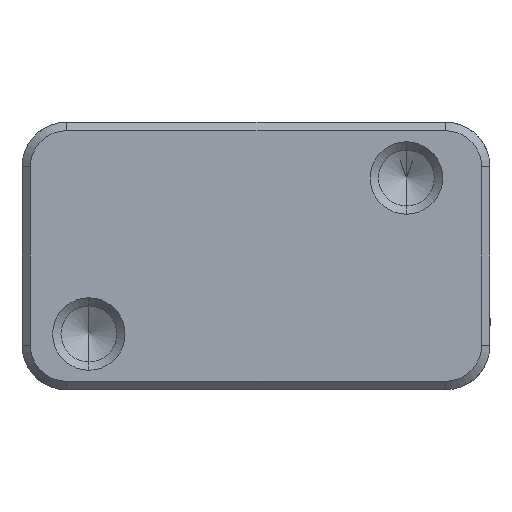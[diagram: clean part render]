
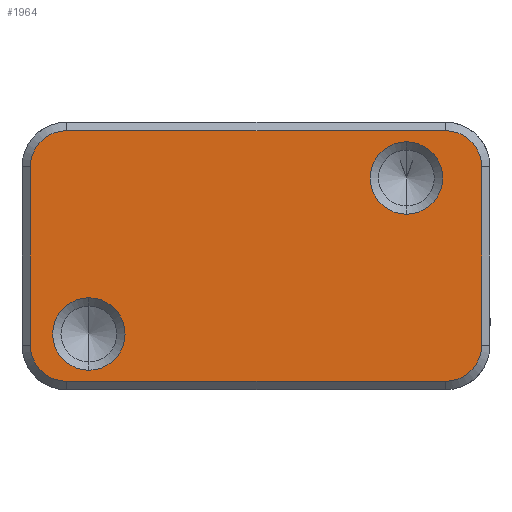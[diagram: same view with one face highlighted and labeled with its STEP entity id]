
A CAD part, front view. The second image highlights one B-rep face of the part: STEP entity #1964.
In plain terms, the highlighted planar face has unit normal (0, -1, 0).
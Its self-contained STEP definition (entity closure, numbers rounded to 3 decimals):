
#288 = CARTESIAN_POINT ( 'NONE',  ( 17., 0., 7.995 ) ) ;
#332 = EDGE_CURVE ( 'NONE', #4616, #9014, #9553, .T. ) ;
#355 = VERTEX_POINT ( 'NONE', #4909 ) ;
#356 = VECTOR ( 'NONE', #11866, 1000. ) ;
#488 = DIRECTION ( 'NONE',  ( -1., 0., 0. ) ) ;
#665 = ORIENTED_EDGE ( 'NONE', *, *, #3602, .T. ) ;
#1172 = EDGE_CURVE ( 'NONE', #4988, #11158, #1925, .T. ) ;
#1275 = AXIS2_PLACEMENT_3D ( 'NONE', #13134, #13539, #488 ) ;
#1294 = ORIENTED_EDGE ( 'NONE', *, *, #3321, .F. ) ;
#1463 = DIRECTION ( 'NONE',  ( 0., 1., 0. ) ) ;
#1477 = AXIS2_PLACEMENT_3D ( 'NONE', #3215, #6392, #11806 ) ;
#1568 = VERTEX_POINT ( 'NONE', #2068 ) ;
#1906 = CIRCLE ( 'NONE', #3263, 3.25 ) ;
#1925 = CIRCLE ( 'NONE', #1477, 3.25 ) ;
#1964 = ADVANCED_FACE ( 'NONE', ( #6305, #11719, #10591 ), #10803, .T. ) ;
#2068 = CARTESIAN_POINT ( 'NONE',  ( 13.5, 0., 10.245 ) ) ;
#2164 = CARTESIAN_POINT ( 'NONE',  ( 17., 0., -11.256 ) ) ;
#2250 = EDGE_CURVE ( 'NONE', #8808, #5176, #12907, .T. ) ;
#2510 = DIRECTION ( 'NONE',  ( 0., 1., 0. ) ) ;
#2615 = CARTESIAN_POINT ( 'NONE',  ( 20.25, 0., -8.006 ) ) ;
#2625 = CIRCLE ( 'NONE', #1275, 3.25 ) ;
#2854 = ORIENTED_EDGE ( 'NONE', *, *, #10769, .T. ) ;
#2875 = LINE ( 'NONE', #4983, #12175 ) ;
#2876 = ORIENTED_EDGE ( 'NONE', *, *, #8964, .T. ) ;
#2904 = CARTESIAN_POINT ( 'NONE',  ( -20.25, 0., 7.995 ) ) ;
#2953 = EDGE_LOOP ( 'NONE', ( #7180, #9186 ) ) ;
#3215 = CARTESIAN_POINT ( 'NONE',  ( -17., 0., -8.006 ) ) ;
#3263 = AXIS2_PLACEMENT_3D ( 'NONE', #5923, #8027, #11267 ) ;
#3308 = CARTESIAN_POINT ( 'NONE',  ( -15., 0., -3.755 ) ) ;
#3321 = EDGE_CURVE ( 'NONE', #9014, #4988, #5333, .T. ) ;
#3432 = CARTESIAN_POINT ( 'NONE',  ( 13.5, 0., 6.995 ) ) ;
#3602 = EDGE_CURVE ( 'NONE', #9271, #12233, #2625, .T. ) ;
#3704 = DIRECTION ( 'NONE',  ( 0., 0., -1. ) ) ;
#3709 = CARTESIAN_POINT ( 'NONE',  ( 17., 0., -8.006 ) ) ;
#3841 = VERTEX_POINT ( 'NONE', #3308 ) ;
#3985 = CARTESIAN_POINT ( 'NONE',  ( -17., 0., -11.256 ) ) ;
#4245 = CARTESIAN_POINT ( 'NONE',  ( -21., 0., -12.006 ) ) ;
#4554 = ORIENTED_EDGE ( 'NONE', *, *, #12454, .T. ) ;
#4616 = VERTEX_POINT ( 'NONE', #2615 ) ;
#4640 = CARTESIAN_POINT ( 'NONE',  ( 13.5, 0., 3.745 ) ) ;
#4700 = DIRECTION ( 'NONE',  ( -1., 0., 0. ) ) ;
#4771 = CARTESIAN_POINT ( 'NONE',  ( -21., 0., 11.245 ) ) ;
#4909 = CARTESIAN_POINT ( 'NONE',  ( -15., 0., -10.255 ) ) ;
#4983 = CARTESIAN_POINT ( 'NONE',  ( -20.25, 0., -12.006 ) ) ;
#4988 = VERTEX_POINT ( 'NONE', #3985 ) ;
#5152 = ORIENTED_EDGE ( 'NONE', *, *, #10312, .T. ) ;
#5176 = VERTEX_POINT ( 'NONE', #5816 ) ;
#5333 = LINE ( 'NONE', #12094, #11357 ) ;
#5448 = DIRECTION ( 'NONE',  ( 0., -1., 0. ) ) ;
#5816 = CARTESIAN_POINT ( 'NONE',  ( 17., 0., 11.245 ) ) ;
#5844 = DIRECTION ( 'NONE',  ( 0., 0., -1. ) ) ;
#5923 = CARTESIAN_POINT ( 'NONE',  ( -15., 0., -7.005 ) ) ;
#6305 = FACE_BOUND ( 'NONE', #2953, .T. ) ;
#6392 = DIRECTION ( 'NONE',  ( 0., 1., 0. ) ) ;
#6398 = DIRECTION ( 'NONE',  ( -1., 0., 0. ) ) ;
#6590 = LINE ( 'NONE', #7642, #356 ) ;
#6836 = AXIS2_PLACEMENT_3D ( 'NONE', #288, #11998, #11861 ) ;
#7180 = ORIENTED_EDGE ( 'NONE', *, *, #9635, .T. ) ;
#7284 = EDGE_CURVE ( 'NONE', #5176, #9271, #13373, .T. ) ;
#7465 = DIRECTION ( 'NONE',  ( 0., 0., -1. ) ) ;
#7642 = CARTESIAN_POINT ( 'NONE',  ( 20.25, 0., -12.006 ) ) ;
#8027 = DIRECTION ( 'NONE',  ( 0., 1., 0. ) ) ;
#8472 = DIRECTION ( 'NONE',  ( 1., 0., 0. ) ) ;
#8808 = VERTEX_POINT ( 'NONE', #12180 ) ;
#8860 = CARTESIAN_POINT ( 'NONE',  ( -15., 0., -7.005 ) ) ;
#8964 = EDGE_CURVE ( 'NONE', #12233, #11158, #2875, .T. ) ;
#9014 = VERTEX_POINT ( 'NONE', #2164 ) ;
#9139 = DIRECTION ( 'NONE',  ( -1., 0., 0. ) ) ;
#9185 = VECTOR ( 'NONE', #9139, 1000. ) ;
#9186 = ORIENTED_EDGE ( 'NONE', *, *, #9209, .T. ) ;
#9209 = EDGE_CURVE ( 'NONE', #1568, #9721, #11053, .T. ) ;
#9271 = VERTEX_POINT ( 'NONE', #12440 ) ;
#9553 = CIRCLE ( 'NONE', #10906, 3.25 ) ;
#9635 = EDGE_CURVE ( 'NONE', #9721, #1568, #13417, .T. ) ;
#9654 = EDGE_LOOP ( 'NONE', ( #4554, #2854 ) ) ;
#9721 = VERTEX_POINT ( 'NONE', #4640 ) ;
#9784 = CARTESIAN_POINT ( 'NONE',  ( 13.5, 0., 6.995 ) ) ;
#9814 = AXIS2_PLACEMENT_3D ( 'NONE', #9784, #13940, #7465 ) ;
#9840 = DIRECTION ( 'NONE',  ( 0., 0., -1. ) ) ;
#10312 = EDGE_CURVE ( 'NONE', #4616, #8808, #6590, .T. ) ;
#10588 = AXIS2_PLACEMENT_3D ( 'NONE', #3432, #2510, #9840 ) ;
#10591 = FACE_BOUND ( 'NONE', #9654, .T. ) ;
#10632 = ORIENTED_EDGE ( 'NONE', *, *, #332, .F. ) ;
#10769 = EDGE_CURVE ( 'NONE', #3841, #355, #10952, .T. ) ;
#10803 = PLANE ( 'NONE',  #11276 ) ;
#10904 = DIRECTION ( 'NONE',  ( 0., 1., 0. ) ) ;
#10906 = AXIS2_PLACEMENT_3D ( 'NONE', #3709, #1463, #4700 ) ;
#10952 = CIRCLE ( 'NONE', #12746, 3.25 ) ;
#11053 = CIRCLE ( 'NONE', #10588, 3.25 ) ;
#11158 = VERTEX_POINT ( 'NONE', #12491 ) ;
#11267 = DIRECTION ( 'NONE',  ( 0., 0., -1. ) ) ;
#11276 = AXIS2_PLACEMENT_3D ( 'NONE', #4245, #5448, #8472 ) ;
#11357 = VECTOR ( 'NONE', #6398, 1000. ) ;
#11668 = EDGE_LOOP ( 'NONE', ( #665, #2876, #13383, #1294, #10632, #5152, #12662, #12893 ) ) ;
#11719 = FACE_OUTER_BOUND ( 'NONE', #11668, .T. ) ;
#11806 = DIRECTION ( 'NONE',  ( 0., 0., 1. ) ) ;
#11861 = DIRECTION ( 'NONE',  ( 0., 0., 1. ) ) ;
#11866 = DIRECTION ( 'NONE',  ( 0., 0., 1. ) ) ;
#11998 = DIRECTION ( 'NONE',  ( 0., -1., 0. ) ) ;
#12094 = CARTESIAN_POINT ( 'NONE',  ( -21., 0., -11.256 ) ) ;
#12175 = VECTOR ( 'NONE', #5844, 1000. ) ;
#12180 = CARTESIAN_POINT ( 'NONE',  ( 20.25, 0., 7.995 ) ) ;
#12233 = VERTEX_POINT ( 'NONE', #2904 ) ;
#12440 = CARTESIAN_POINT ( 'NONE',  ( -17., 0., 11.245 ) ) ;
#12454 = EDGE_CURVE ( 'NONE', #355, #3841, #1906, .T. ) ;
#12491 = CARTESIAN_POINT ( 'NONE',  ( -20.25, 0., -8.006 ) ) ;
#12662 = ORIENTED_EDGE ( 'NONE', *, *, #2250, .T. ) ;
#12746 = AXIS2_PLACEMENT_3D ( 'NONE', #8860, #10904, #3704 ) ;
#12893 = ORIENTED_EDGE ( 'NONE', *, *, #7284, .T. ) ;
#12907 = CIRCLE ( 'NONE', #6836, 3.25 ) ;
#13134 = CARTESIAN_POINT ( 'NONE',  ( -17., 0., 7.995 ) ) ;
#13373 = LINE ( 'NONE', #4771, #9185 ) ;
#13383 = ORIENTED_EDGE ( 'NONE', *, *, #1172, .F. ) ;
#13417 = CIRCLE ( 'NONE', #9814, 3.25 ) ;
#13539 = DIRECTION ( 'NONE',  ( 0., -1., 0. ) ) ;
#13940 = DIRECTION ( 'NONE',  ( 0., 1., 0. ) ) ;
